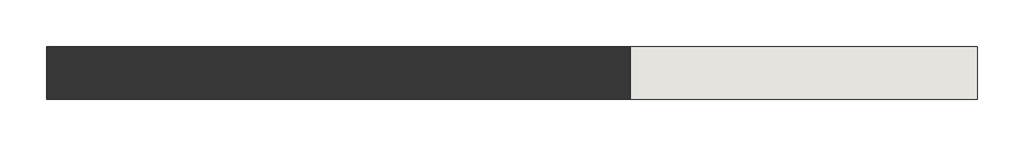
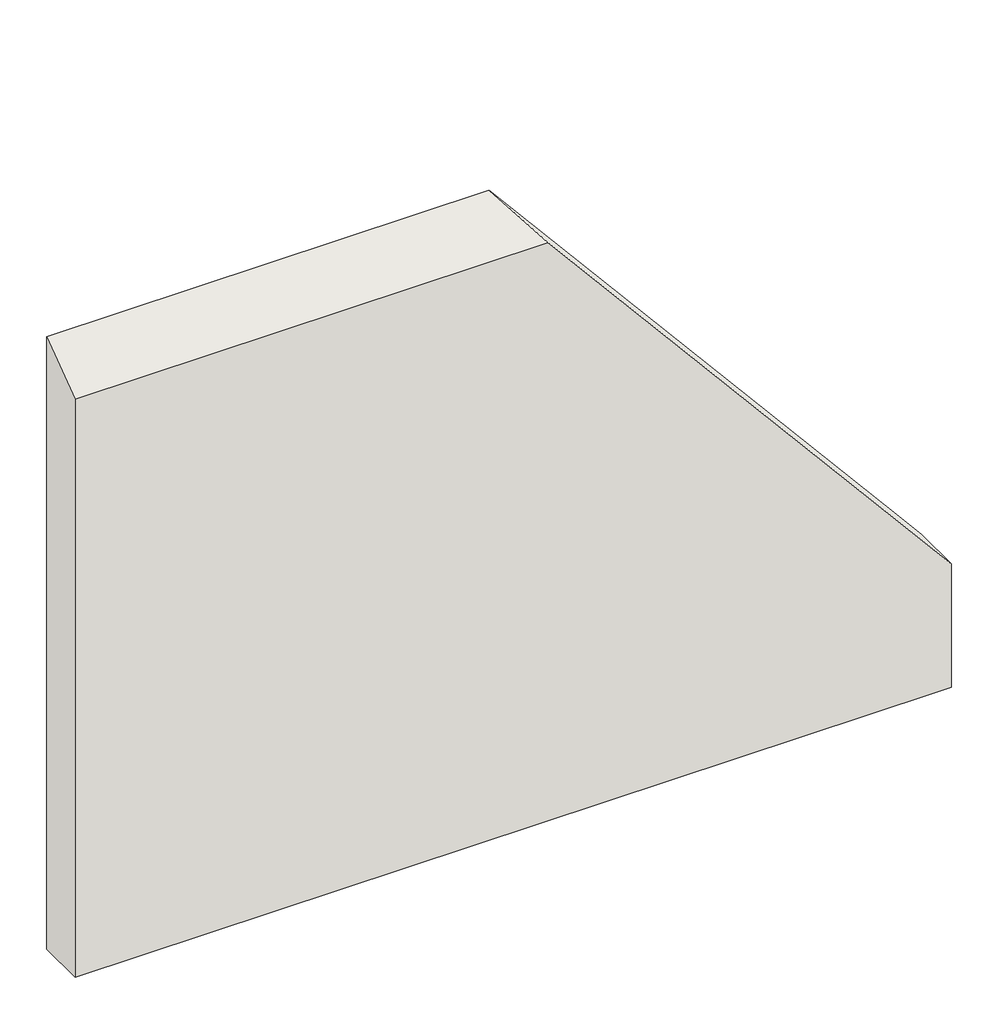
# One storey: 1 wall.
"""IFC4 building model written with IfcOpenShell, lengths in millimetres."""

from ifc_helpers import new_model, si_unit, origin, place, context, project, spatial, faceted_brep, element, save

model = new_model("IFC4")

# Units and contexts
model_context = context("Model", 3, world=origin())
ifc_project = project(units=[si_unit("LENGTHUNIT", "METRE", prefix="MILLI")], contexts=[model_context])

# Site, building, storey
site = spatial("IfcSite", under=ifc_project)
building = spatial("IfcBuilding", under=site)
storey = spatial("IfcBuildingStorey", under=building, Name="U/S ATTIC", Elevation=5334.0)

# Wall
placement = place(None, origin())
element("IfcWall", 1, ObjectType="Planitar - Generic 4 1/2\"", at=placement, inside=storey, context=model_context, shape_type="Brep", body=[
    faceted_brep([(-210.75, 683.2, 5334.0), (1776.8, 683.2, 5334.0), (1814.9, 683.2, 5334.0), (1814.9, 683.2, 5634.8605948), (1776.8, 683.2, 5680.2664067), (882.7192511, 683.2, 6745.7903512), (-210.75, 683.2, 6745.7903512), (-210.75, 797.5, 5334.0), (-210.75, 797.5, 5638.8), (-210.75, 797.5, 6829.3659338), (812.5910106, 797.5, 6829.3659338), (1776.8, 797.5, 5680.2664067), (1811.5944465, 797.5, 5638.8), (1814.9, 797.5, 5634.8605948), (1814.9, 797.5, 5334.0), (17.85, 797.5, 5334.0), (-96.45, 797.5, 5334.0), (1814.9, 776.1, 5334.0)], [[[0, 1, 2, 3, 4, 5, 6]], [[7, 8, 9, 10, 11, 12, 13, 14, 15, 16]], [[2, 1, 0, 7, 16, 15, 14, 17]], [[0, 6, 9, 8, 7]], [[6, 5, 10, 9]], [[5, 4, 3, 13, 12, 11, 10]], [[3, 2, 17, 14, 13]]]),
])

save(model, "model.ifc")
